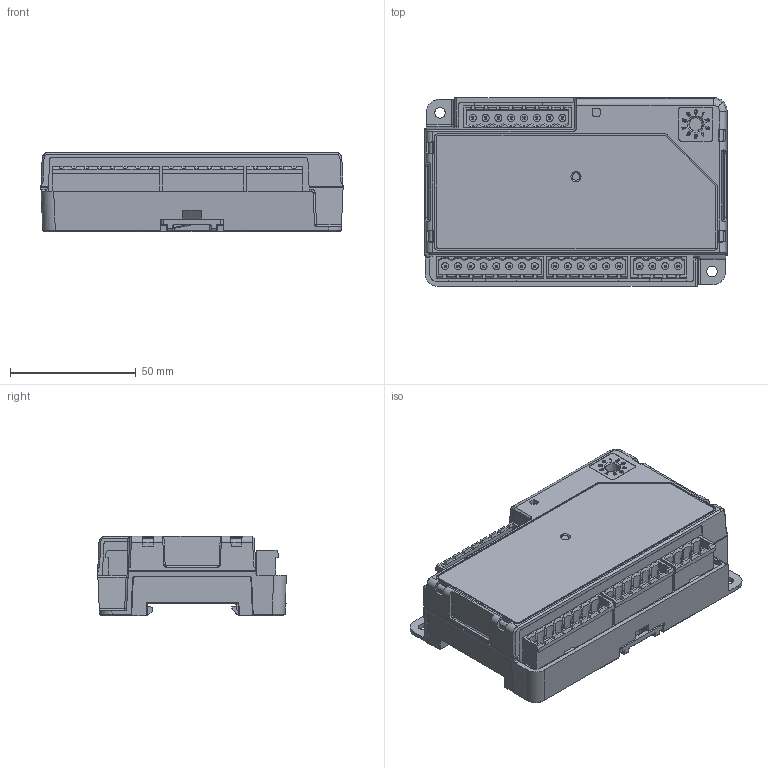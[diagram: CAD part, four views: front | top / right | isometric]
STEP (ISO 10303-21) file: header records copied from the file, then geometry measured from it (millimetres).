
FILE_DESCRIPTION (( 'STEP AP214' ), '1' );
FILE_NAME ('DSE2160.STEP', '2023-07-14T11:51:50', ( '' ), ( '' ), 'SwSTEP 2.0', 'SolidWorks 2022', '' );
FILE_SCHEMA (( 'AUTOMOTIVE_DESIGN' ));
Length unit declared in the file: millimetre
Products named in the file (1): DSE2160
Bounding box: 120 x 74.93 x 31.5 mm (x, y, z)
Volume: 219176.4 mm3; surface area: 42434.9 mm2
Topology: 1 solids, 2 shells, 1576 faces, 4007 edges, 2544 vertices
Faces by surface type: plane 1058, cylinder 235, bspline 234, cone 46, sphere 2, torus 1
Entity records: 57112 total; most frequent: CARTESIAN_POINT 21337, ORIENTED_EDGE 8010, DIRECTION 6233, EDGE_CURVE 4005, VECTOR 2875, LINE 2875, VERTEX_POINT 2544, EDGE_LOOP 1743
